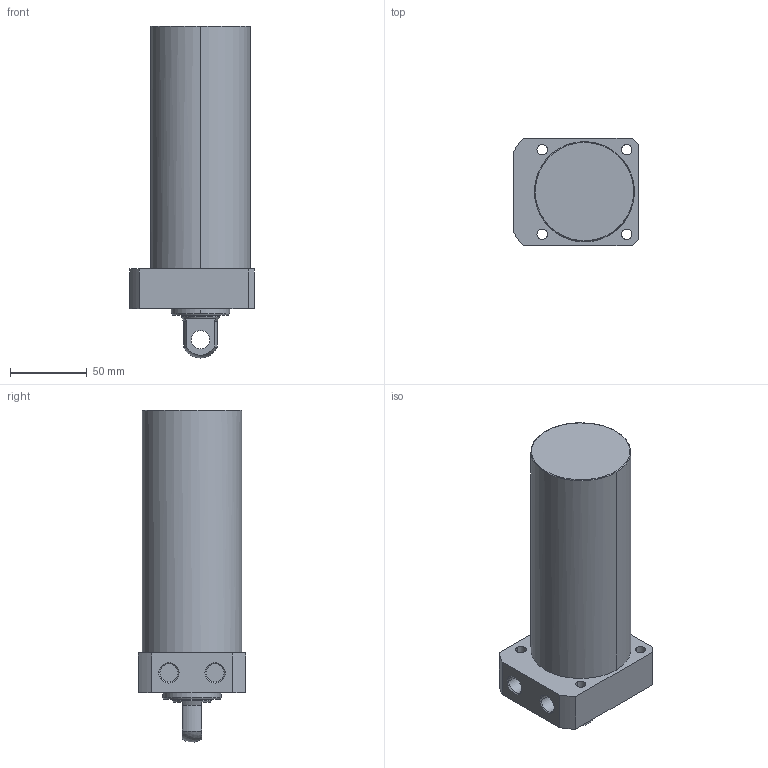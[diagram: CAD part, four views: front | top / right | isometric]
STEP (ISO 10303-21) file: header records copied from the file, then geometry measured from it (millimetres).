
FILE_DESCRIPTION((' '),'2;1');
FILE_NAME( 'TLLR-065CP-125.STEP.stp', '2025-10-24T16:35:04', (' '), ('--- Datakit www.datakit.com---'), ' Datakit CrossCadWare V2024.1 Dec 21 2023', 'Mastercam 2025', ' ');
FILE_SCHEMA(('AUTOMOTIVE_DESIGN { 1 0 10303 214 1 1 1 1 }'));
Length unit declared in the file: millimetre
Products named in the file (1): TLLR-065CP-125
Bounding box: 81 x 70 x 215.92 mm (x, y, z)
Volume: 671923.3 mm3; surface area: 56628.2 mm2
Topology: 1 solids, 1 shells, 57 faces, 164 edges, 116 vertices
Faces by surface type: cylinder 28, plane 18, cone 8, torus 2, sphere 1
Entity records: 2006 total; most frequent: DIRECTION 378, CARTESIAN_POINT 350, ORIENTED_EDGE 328, EDGE_CURVE 164, AXIS2_PLACEMENT_3D 160, VERTEX_POINT 116, CIRCLE 102, EDGE_LOOP 74
